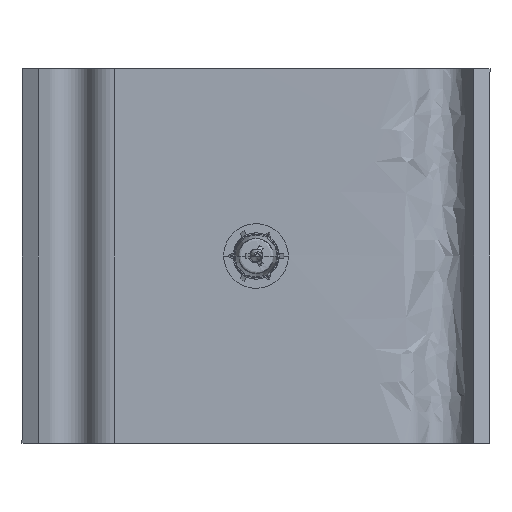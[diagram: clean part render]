
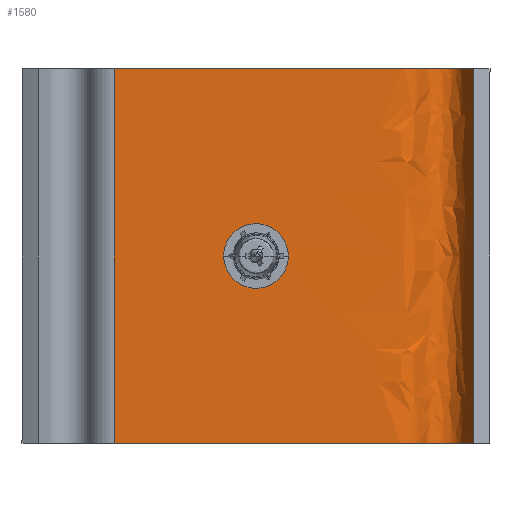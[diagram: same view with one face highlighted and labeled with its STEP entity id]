
A CAD part, left-side view. The second image highlights one B-rep face of the part: STEP entity #1580.
In plain terms, the highlighted free-form (B-spline) face has degree [2, 1] with [13, 2] control points.
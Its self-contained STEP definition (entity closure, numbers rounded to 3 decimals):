
#31=FACE_BOUND($,#1914,.T.);
#1580=ADVANCED_FACE($,(#1746,#31),#3998,.T.);
#1746=FACE_OUTER_BOUND($,#1913,.T.);
#1913=EDGE_LOOP($,(#2106,#2107,#2108,#2109));
#1914=EDGE_LOOP($,(#2110));
#2106=ORIENTED_EDGE($,*,*,#2776,.T.);
#2107=ORIENTED_EDGE($,*,*,#2775,.T.);
#2108=ORIENTED_EDGE($,*,*,#2773,.F.);
#2109=ORIENTED_EDGE($,*,*,#2774,.F.);
#2110=ORIENTED_EDGE($,*,*,#2777,.T.);
#2773=EDGE_CURVE($,#3410,#3411,#4139,.T.);
#2774=EDGE_CURVE($,#3412,#3410,#4401,.T.);
#2775=EDGE_CURVE($,#3413,#3411,#4402,.T.);
#2776=EDGE_CURVE($,#3412,#3413,#4140,.T.);
#2777=EDGE_CURVE($,#3414,#3414,#4403,.T.);
#3410=VERTEX_POINT($,#5194);
#3411=VERTEX_POINT($,#5195);
#3412=VERTEX_POINT($,#5196);
#3413=VERTEX_POINT($,#5197);
#3414=VERTEX_POINT($,#5198);
#3998=(
BOUNDED_SURFACE()
B_SPLINE_SURFACE(2,1,((#5168,#5169),(#5170,#5171),(#5172,#5173),(#5174,#5175),
(#5176,#5177),(#5178,#5179),(#5180,#5181),(#5182,#5183),(#5184,#5185),(#5186,
#5187),(#5188,#5189),(#5190,#5191),(#5192,#5193)),.UNSPECIFIED.,.F.,.F.,
.F.)
B_SPLINE_SURFACE_WITH_KNOTS((3,2,2,2,2,2,3),(2,2),(-164.602,-126.746,
-123.114,-123.004,-119.891,-116.778,
-116.432),(0.,50.),.UNSPECIFIED.)
GEOMETRIC_REPRESENTATION_ITEM()
RATIONAL_B_SPLINE_SURFACE(((1.,1.),(1.,1.),(1.,1.),(0.868,0.868),
(1.,1.),(1.,1.),(1.,1.),(0.868,0.868),(1.,1.),(0.868,
0.868),(1.,1.),(1.,1.),(1.,1.)))
REPRESENTATION_ITEM($)
SURFACE()
);
#4139=B_SPLINE_CURVE_WITH_KNOTS($,1,(#5129,#5130),.UNSPECIFIED.,.F.,.F.,
(2,2),(0.,50.),.UNSPECIFIED.);
#4140=B_SPLINE_CURVE_WITH_KNOTS($,1,(#5157,#5158),.UNSPECIFIED.,.F.,.F.,
(2,2),(0.,50.),.UNSPECIFIED.);
#4401=(
BOUNDED_CURVE()
B_SPLINE_CURVE(2,(#5131,#5132,#5133,#5134,#5135,#5136,#5137,#5138,#5139,
#5140,#5141,#5142,#5143),.UNSPECIFIED.,.F.,.F.)
B_SPLINE_CURVE_WITH_KNOTS((3,2,2,2,2,2,3),(116.432,116.778,
119.891,123.004,123.114,126.746,164.602),
.UNSPECIFIED.)
CURVE()
GEOMETRIC_REPRESENTATION_ITEM()
RATIONAL_B_SPLINE_CURVE((1.,1.,1.,0.868,1.,0.868,
1.,1.,1.,0.868,1.,1.,1.))
REPRESENTATION_ITEM($)
);
#4402=(
BOUNDED_CURVE()
B_SPLINE_CURVE(2,(#5144,#5145,#5146,#5147,#5148,#5149,#5150,#5151,#5152,
#5153,#5154,#5155,#5156),.UNSPECIFIED.,.F.,.F.)
B_SPLINE_CURVE_WITH_KNOTS((3,2,2,2,2,2,3),(116.432,116.778,
119.891,123.004,123.114,126.746,164.602),
.UNSPECIFIED.)
CURVE()
GEOMETRIC_REPRESENTATION_ITEM()
RATIONAL_B_SPLINE_CURVE((1.,1.,1.,0.868,1.,0.868,
1.,1.,1.,0.868,1.,1.,1.))
REPRESENTATION_ITEM($)
);
#4403=(
BOUNDED_CURVE()
B_SPLINE_CURVE(2,(#5159,#5160,#5161,#5162,#5163,#5164,#5165,#5166,#5167),
.UNSPECIFIED.,.T.,.F.)
B_SPLINE_CURVE_WITH_KNOTS((3,2,2,2,3),(-26.386,-19.79,
-13.193,-6.597,0.),.UNSPECIFIED.)
CURVE()
GEOMETRIC_REPRESENTATION_ITEM()
RATIONAL_B_SPLINE_CURVE((1.,0.707,1.,0.707,1.,0.707,
1.,0.707,1.))
REPRESENTATION_ITEM($)
);
#5129=CARTESIAN_POINT($,(-2.25,18.928,-25.));
#5130=CARTESIAN_POINT($,(-2.25,18.928,25.));
#5131=CARTESIAN_POINT($,(-2.25,-29.074,-25.));
#5132=CARTESIAN_POINT($,(-0.988,-28.329,-25.));
#5133=CARTESIAN_POINT($,(0.275,-27.584,-25.));
#5134=CARTESIAN_POINT($,(1.75,-26.713,-25.));
#5135=CARTESIAN_POINT($,(1.75,-25.,-25.));
#5136=CARTESIAN_POINT($,(1.75,-23.287,-25.));
#5137=CARTESIAN_POINT($,(0.275,-22.416,-25.));
#5138=CARTESIAN_POINT($,(-0.127,-22.179,-25.));
#5139=CARTESIAN_POINT($,(-0.529,-21.942,-25.));
#5140=CARTESIAN_POINT($,(-2.25,-20.926,-25.));
#5141=CARTESIAN_POINT($,(-2.25,-18.928,-25.));
#5142=CARTESIAN_POINT($,(-2.25,0.,-25.));
#5143=CARTESIAN_POINT($,(-2.25,18.928,-25.));
#5144=CARTESIAN_POINT($,(-2.25,-29.074,25.));
#5145=CARTESIAN_POINT($,(-0.988,-28.329,25.));
#5146=CARTESIAN_POINT($,(0.275,-27.584,25.));
#5147=CARTESIAN_POINT($,(1.75,-26.713,25.));
#5148=CARTESIAN_POINT($,(1.75,-25.,25.));
#5149=CARTESIAN_POINT($,(1.75,-23.287,25.));
#5150=CARTESIAN_POINT($,(0.275,-22.416,25.));
#5151=CARTESIAN_POINT($,(-0.127,-22.179,25.));
#5152=CARTESIAN_POINT($,(-0.529,-21.942,25.));
#5153=CARTESIAN_POINT($,(-2.25,-20.926,25.));
#5154=CARTESIAN_POINT($,(-2.25,-18.928,25.));
#5155=CARTESIAN_POINT($,(-2.25,0.,25.));
#5156=CARTESIAN_POINT($,(-2.25,18.928,25.));
#5157=CARTESIAN_POINT($,(-2.25,-29.074,-25.));
#5158=CARTESIAN_POINT($,(-2.25,-29.074,25.));
#5159=CARTESIAN_POINT($,(-2.25,4.2,0.));
#5160=CARTESIAN_POINT($,(-2.25,4.2,4.2));
#5161=CARTESIAN_POINT($,(-2.25,0.,4.2));
#5162=CARTESIAN_POINT($,(-2.25,-4.2,4.2));
#5163=CARTESIAN_POINT($,(-2.25,-4.2,0.));
#5164=CARTESIAN_POINT($,(-2.25,-4.2,-4.2));
#5165=CARTESIAN_POINT($,(-2.25,0.,-4.2));
#5166=CARTESIAN_POINT($,(-2.25,4.2,-4.2));
#5167=CARTESIAN_POINT($,(-2.25,4.2,0.));
#5168=CARTESIAN_POINT($,(-2.25,18.928,-25.));
#5169=CARTESIAN_POINT($,(-2.25,18.928,25.));
#5170=CARTESIAN_POINT($,(-2.25,0.,-25.));
#5171=CARTESIAN_POINT($,(-2.25,0.,25.));
#5172=CARTESIAN_POINT($,(-2.25,-18.928,-25.));
#5173=CARTESIAN_POINT($,(-2.25,-18.928,25.));
#5174=CARTESIAN_POINT($,(-2.25,-20.926,-25.));
#5175=CARTESIAN_POINT($,(-2.25,-20.926,25.));
#5176=CARTESIAN_POINT($,(-0.529,-21.942,-25.));
#5177=CARTESIAN_POINT($,(-0.529,-21.942,25.));
#5178=CARTESIAN_POINT($,(-0.127,-22.179,-25.));
#5179=CARTESIAN_POINT($,(-0.127,-22.179,25.));
#5180=CARTESIAN_POINT($,(0.275,-22.416,-25.));
#5181=CARTESIAN_POINT($,(0.275,-22.416,25.));
#5182=CARTESIAN_POINT($,(1.75,-23.287,-25.));
#5183=CARTESIAN_POINT($,(1.75,-23.287,25.));
#5184=CARTESIAN_POINT($,(1.75,-25.,-25.));
#5185=CARTESIAN_POINT($,(1.75,-25.,25.));
#5186=CARTESIAN_POINT($,(1.75,-26.713,-25.));
#5187=CARTESIAN_POINT($,(1.75,-26.713,25.));
#5188=CARTESIAN_POINT($,(0.275,-27.584,-25.));
#5189=CARTESIAN_POINT($,(0.275,-27.584,25.));
#5190=CARTESIAN_POINT($,(-0.988,-28.329,-25.));
#5191=CARTESIAN_POINT($,(-0.988,-28.329,25.));
#5192=CARTESIAN_POINT($,(-2.25,-29.074,-25.));
#5193=CARTESIAN_POINT($,(-2.25,-29.074,25.));
#5194=CARTESIAN_POINT($,(-2.25,18.928,-25.));
#5195=CARTESIAN_POINT($,(-2.25,18.928,25.));
#5196=CARTESIAN_POINT($,(-2.25,-29.074,-25.));
#5197=CARTESIAN_POINT($,(-2.25,-29.074,25.));
#5198=CARTESIAN_POINT($,(-2.25,4.2,0.));
